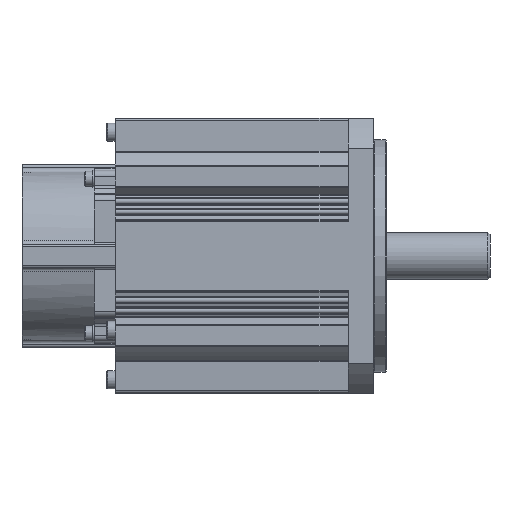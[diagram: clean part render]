
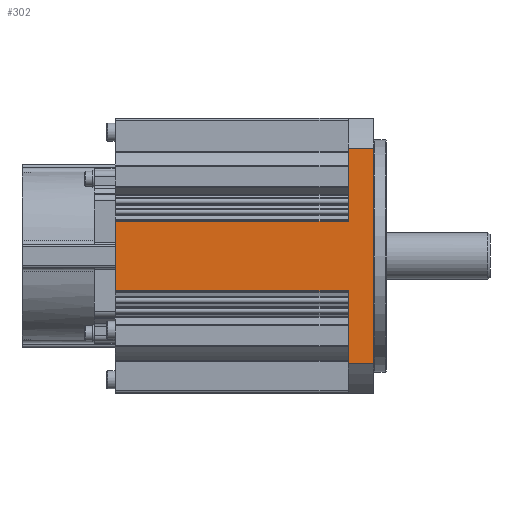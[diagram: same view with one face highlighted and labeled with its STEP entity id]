
A CAD part, front view. The second image highlights one B-rep face of the part: STEP entity #302.
In plain terms, the highlighted planar face has unit normal (0, -1, 0).
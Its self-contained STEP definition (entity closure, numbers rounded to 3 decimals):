
#302 = ADVANCED_FACE( '', ( #1114 ), #1115, .T. );
#1114 = FACE_OUTER_BOUND( '', #2333, .T. );
#1115 = PLANE( '', #2334 );
#2333 = EDGE_LOOP( '', ( #5109, #5110, #5111, #5112, #5113, #5114, #5115, #5116 ) );
#2334 = AXIS2_PLACEMENT_3D( '', #5117, #5118, #5119 );
#5109 = ORIENTED_EDGE( '', *, *, #7922, .F. );
#5110 = ORIENTED_EDGE( '', *, *, #8173, .T. );
#5111 = ORIENTED_EDGE( '', *, *, #8135, .F. );
#5112 = ORIENTED_EDGE( '', *, *, #8174, .F. );
#5113 = ORIENTED_EDGE( '', *, *, #7586, .F. );
#5114 = ORIENTED_EDGE( '', *, *, #7594, .T. );
#5115 = ORIENTED_EDGE( '', *, *, #8124, .T. );
#5116 = ORIENTED_EDGE( '', *, *, #7592, .F. );
#5117 = CARTESIAN_POINT( '', ( -122., -65., 50.806 ) );
#5118 = DIRECTION( '', ( 0., -1., 0. ) );
#5119 = DIRECTION( '', ( 0., 0., -1. ) );
#7586 = EDGE_CURVE( '', #9096, #9098, #9099, .T. );
#7592 = EDGE_CURVE( '', #9108, #9103, #9110, .T. );
#7594 = EDGE_CURVE( '', #9096, #9112, #9114, .T. );
#7922 = EDGE_CURVE( '', #9668, #9108, #9669, .T. );
#8124 = EDGE_CURVE( '', #9112, #9103, #10000, .T. );
#8135 = EDGE_CURVE( '', #10019, #10021, #10022, .T. );
#8173 = EDGE_CURVE( '', #9668, #10021, #10094, .T. );
#8174 = EDGE_CURVE( '', #9098, #10019, #10095, .T. );
#9096 = VERTEX_POINT( '', #11742 );
#9098 = VERTEX_POINT( '', #11744 );
#9099 = LINE( '', #11745, #11746 );
#9103 = VERTEX_POINT( '', #11750 );
#9108 = VERTEX_POINT( '', #11756 );
#9110 = LINE( '', #11758, #11759 );
#9112 = VERTEX_POINT( '', #11761 );
#9114 = LINE( '', #11763, #11764 );
#9668 = VERTEX_POINT( '', #12502 );
#9669 = LINE( '', #12503, #12504 );
#10000 = LINE( '', #12960, #12961 );
#10019 = VERTEX_POINT( '', #12981 );
#10021 = VERTEX_POINT( '', #12983 );
#10022 = LINE( '', #12984, #12985 );
#10094 = LINE( '', #13084, #13085 );
#10095 = LINE( '', #13086, #13087 );
#11742 = CARTESIAN_POINT( '', ( -12., -65., 16.424 ) );
#11744 = CARTESIAN_POINT( '', ( -12., -65., 50.806 ) );
#11745 = CARTESIAN_POINT( '', ( -12., -65., 50.806 ) );
#11746 = VECTOR( '', #14732, 1000. );
#11750 = CARTESIAN_POINT( '', ( -122., -65., -16.424 ) );
#11756 = CARTESIAN_POINT( '', ( -12., -65., -16.424 ) );
#11758 = CARTESIAN_POINT( '', ( -12., -65., -16.424 ) );
#11759 = VECTOR( '', #14746, 1000. );
#11761 = CARTESIAN_POINT( '', ( -122., -65., 16.424 ) );
#11763 = CARTESIAN_POINT( '', ( -12., -65., 16.424 ) );
#11764 = VECTOR( '', #14750, 1000. );
#12502 = CARTESIAN_POINT( '', ( -12., -65., -50.806 ) );
#12503 = CARTESIAN_POINT( '', ( -12., -65., 50.806 ) );
#12504 = VECTOR( '', #15364, 1000. );
#12960 = CARTESIAN_POINT( '', ( -122., -65., 50.806 ) );
#12961 = VECTOR( '', #15718, 1000. );
#12981 = CARTESIAN_POINT( '', ( 0., -65., 50.806 ) );
#12983 = CARTESIAN_POINT( '', ( 0., -65., -50.806 ) );
#12984 = CARTESIAN_POINT( '', ( 0., -65., 50.806 ) );
#12985 = VECTOR( '', #15747, 1000. );
#13084 = CARTESIAN_POINT( '', ( -122., -65., -50.806 ) );
#13085 = VECTOR( '', #15805, 1000. );
#13086 = CARTESIAN_POINT( '', ( -122., -65., 50.806 ) );
#13087 = VECTOR( '', #15806, 1000. );
#14732 = DIRECTION( '', ( 0., 0., 1. ) );
#14746 = DIRECTION( '', ( -1., 0., 0. ) );
#14750 = DIRECTION( '', ( -1., 0., 0. ) );
#15364 = DIRECTION( '', ( 0., 0., 1. ) );
#15718 = DIRECTION( '', ( 0., 0., -1. ) );
#15747 = DIRECTION( '', ( 0., 0., -1. ) );
#15805 = DIRECTION( '', ( 1., 0., 0. ) );
#15806 = DIRECTION( '', ( 1., 0., 0. ) );
